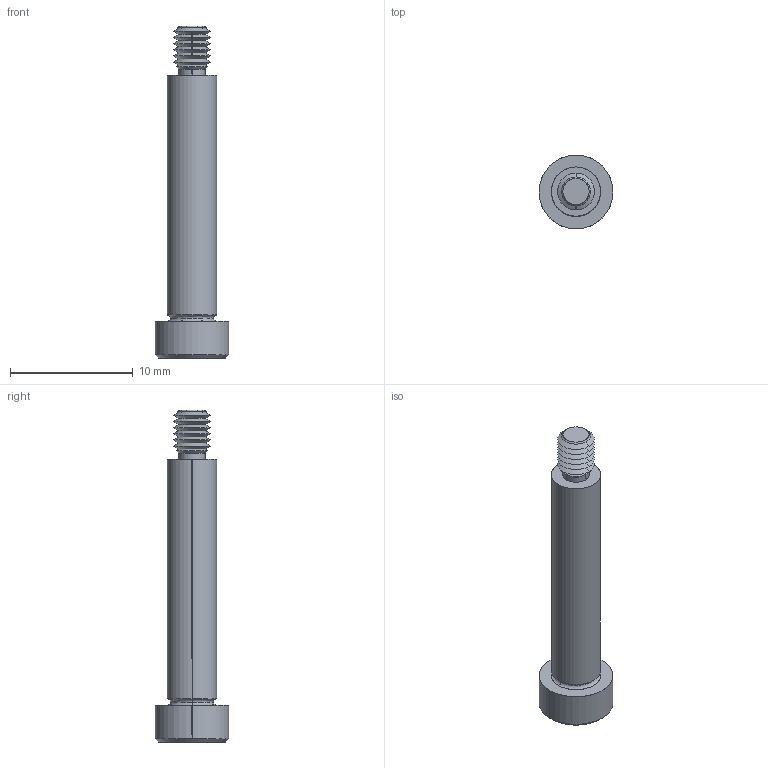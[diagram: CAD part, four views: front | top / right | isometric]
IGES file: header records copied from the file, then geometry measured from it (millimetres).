
Start section: SolidWorks IGES file using analytic representation for surfaces
Global section: file name: C:\Users\IanO\Documents\Temp Folder\GENERAL\SCREW REVISION\P0130_v2\P0130.T5_v2_20220106_IGES\P0130.040-020-T5.igs; native system: SolidWorks 2019; preprocessor: SolidWorks 2019; author: IanO; date: 220106.220854; units: millimetre
Bounding box: 6 x 6 x 27 mm (x, y, z)
Surface area: 436.2 mm2 (no closed solid volume)
Topology: 0 solids, 0 shells, 68 faces, 520 edges, 518 vertices
Faces by surface type: revolution 48, bspline 20
